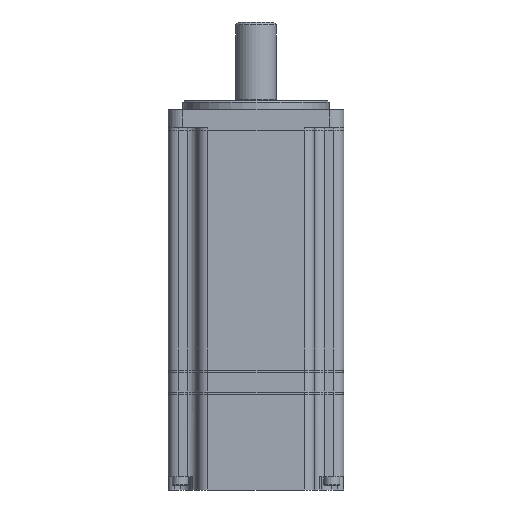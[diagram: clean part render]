
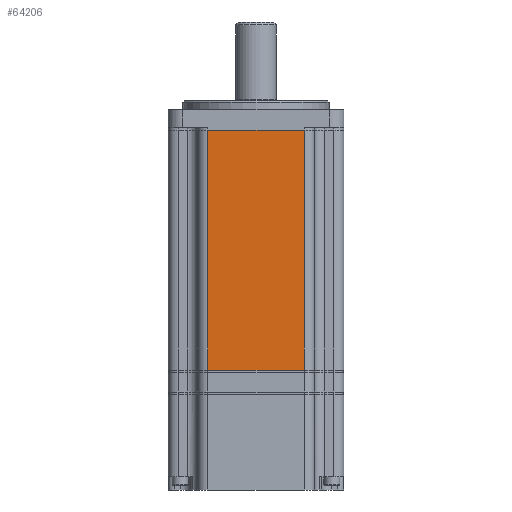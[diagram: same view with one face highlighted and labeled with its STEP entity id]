
A CAD part, front view. The second image highlights one B-rep face of the part: STEP entity #64206.
In plain terms, the highlighted planar face has unit normal (0, -1, 0).
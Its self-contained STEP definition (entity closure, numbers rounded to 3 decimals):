
#1659 = VERTEX_POINT ( 'NONE', #14534 ) ;
#2342 = VERTEX_POINT ( 'NONE', #57037 ) ;
#3919 = VECTOR ( 'NONE', #13080, 1000. ) ;
#4615 = PLANE ( 'NONE',  #39772 ) ;
#4673 = CARTESIAN_POINT ( 'NONE',  ( 16.5, -30., -83. ) ) ;
#5461 = VERTEX_POINT ( 'NONE', #29687 ) ;
#5522 = LINE ( 'NONE', #28209, #3919 ) ;
#10303 = DIRECTION ( 'NONE',  ( -1., 0., 0. ) ) ;
#13080 = DIRECTION ( 'NONE',  ( 0., 0., 1. ) ) ;
#14158 = EDGE_CURVE ( 'NONE', #28261, #1659, #5522, .T. ) ;
#14534 = CARTESIAN_POINT ( 'NONE',  ( 16.5, -30., -1. ) ) ;
#14865 = CARTESIAN_POINT ( 'NONE',  ( 20., -30., -83. ) ) ;
#14871 = ORIENTED_EDGE ( 'NONE', *, *, #45081, .T. ) ;
#15171 = CARTESIAN_POINT ( 'NONE',  ( 20., -30., -83. ) ) ;
#17941 = FACE_OUTER_BOUND ( 'NONE', #45339, .T. ) ;
#19406 = CARTESIAN_POINT ( 'NONE',  ( -16.5, -30., -83. ) ) ;
#20001 = DIRECTION ( 'NONE',  ( 0., 0., 1. ) ) ;
#20921 = LINE ( 'NONE', #19406, #32875 ) ;
#22328 = LINE ( 'NONE', #28631, #61392 ) ;
#28209 = CARTESIAN_POINT ( 'NONE',  ( 16.5, -30., -83. ) ) ;
#28261 = VERTEX_POINT ( 'NONE', #4673 ) ;
#28631 = CARTESIAN_POINT ( 'NONE',  ( 20., -30., -1. ) ) ;
#28794 = ORIENTED_EDGE ( 'NONE', *, *, #14158, .T. ) ;
#29112 = VECTOR ( 'NONE', #10303, 1000. ) ;
#29687 = CARTESIAN_POINT ( 'NONE',  ( -16.5, -30., -83. ) ) ;
#30260 = EDGE_CURVE ( 'NONE', #2342, #5461, #20921, .T. ) ;
#32875 = VECTOR ( 'NONE', #49917, 1000. ) ;
#35415 = EDGE_CURVE ( 'NONE', #28261, #5461, #56241, .T. ) ;
#37244 = ORIENTED_EDGE ( 'NONE', *, *, #30260, .T. ) ;
#39393 = ORIENTED_EDGE ( 'NONE', *, *, #35415, .F. ) ;
#39772 = AXIS2_PLACEMENT_3D ( 'NONE', #14865, #50521, #20001 ) ;
#45081 = EDGE_CURVE ( 'NONE', #1659, #2342, #22328, .T. ) ;
#45339 = EDGE_LOOP ( 'NONE', ( #39393, #28794, #14871, #37244 ) ) ;
#49917 = DIRECTION ( 'NONE',  ( 0., 0., -1. ) ) ;
#50521 = DIRECTION ( 'NONE',  ( 0., 1., 0. ) ) ;
#56241 = LINE ( 'NONE', #15171, #29112 ) ;
#57037 = CARTESIAN_POINT ( 'NONE',  ( -16.5, -30., -1. ) ) ;
#59162 = DIRECTION ( 'NONE',  ( -1., 0., 0. ) ) ;
#61392 = VECTOR ( 'NONE', #59162, 1000. ) ;
#64206 = ADVANCED_FACE ( 'NONE', ( #17941 ), #4615, .F. ) ;
